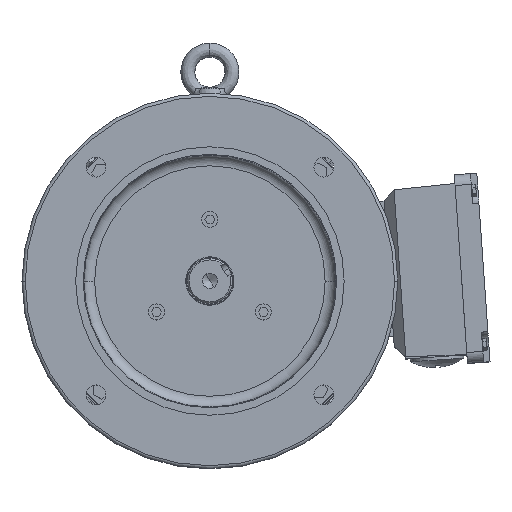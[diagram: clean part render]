
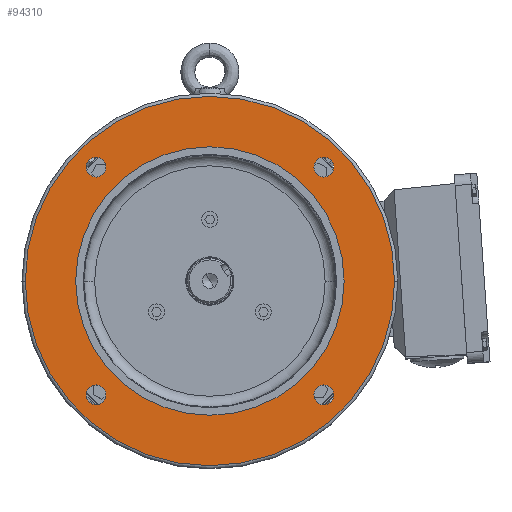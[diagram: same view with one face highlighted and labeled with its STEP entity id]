
A CAD part, top view. The second image highlights one B-rep face of the part: STEP entity #94310.
In plain terms, the highlighted planar face has unit normal (0, 0, 1).
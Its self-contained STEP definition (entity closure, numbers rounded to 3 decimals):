
#14597 = CARTESIAN_POINT ( 'NONE',  ( 0., 0., 17. ) ) ;
#14599 = DIRECTION ( 'NONE',  ( 0., 0., 1. ) ) ;
#14600 = DIRECTION ( 'NONE',  ( -1., 0., 0. ) ) ;
#14638 = CARTESIAN_POINT ( 'NONE',  ( -106.066, 106.066, 17. ) ) ;
#14639 = DIRECTION ( 'NONE',  ( 0., 0., 1. ) ) ;
#14640 = DIRECTION ( 'NONE',  ( 1., 0., 0. ) ) ;
#14648 = CARTESIAN_POINT ( 'NONE',  ( -106.066, -106.066, 17. ) ) ;
#14650 = DIRECTION ( 'NONE',  ( 0., 0., 1. ) ) ;
#14652 = DIRECTION ( 'NONE',  ( 1., 0., 0. ) ) ;
#14668 = CARTESIAN_POINT ( 'NONE',  ( 106.066, -106.066, 17. ) ) ;
#14669 = DIRECTION ( 'NONE',  ( 0., 0., 1. ) ) ;
#14670 = DIRECTION ( 'NONE',  ( 1., 0., 0. ) ) ;
#14679 = CARTESIAN_POINT ( 'NONE',  ( 106.066, 106.066, 17. ) ) ;
#14680 = DIRECTION ( 'NONE',  ( 0., 0., 1. ) ) ;
#14681 = DIRECTION ( 'NONE',  ( 1., 0., 0. ) ) ;
#14704 = CARTESIAN_POINT ( 'NONE',  ( 0., 0., 17. ) ) ;
#14705 = DIRECTION ( 'NONE',  ( 0., 0., 1. ) ) ;
#14706 = DIRECTION ( 'NONE',  ( 1., 0., 0. ) ) ;
#15156 = CARTESIAN_POINT ( 'NONE',  ( 0., 0., 17. ) ) ;
#15157 = DIRECTION ( 'NONE',  ( 0., 0., 1. ) ) ;
#15158 = DIRECTION ( 'NONE',  ( 1., 0., 0. ) ) ;
#15159 = CARTESIAN_POINT ( 'NONE',  ( 0., 0., 17. ) ) ;
#15160 = DIRECTION ( 'NONE',  ( 0., 0., 1. ) ) ;
#15161 = DIRECTION ( 'NONE',  ( -1., 0., 0. ) ) ;
#15162 = CARTESIAN_POINT ( 'NONE',  ( -106.066, 106.066, 17. ) ) ;
#15163 = DIRECTION ( 'NONE',  ( 0., 0., 1. ) ) ;
#15164 = DIRECTION ( 'NONE',  ( 1., 0., 0. ) ) ;
#15165 = CARTESIAN_POINT ( 'NONE',  ( -106.066, -106.066, 17. ) ) ;
#15166 = DIRECTION ( 'NONE',  ( 0., 0., 1. ) ) ;
#15167 = DIRECTION ( 'NONE',  ( 1., 0., 0. ) ) ;
#15168 = CARTESIAN_POINT ( 'NONE',  ( 106.066, -106.066, 17. ) ) ;
#15169 = DIRECTION ( 'NONE',  ( 0., 0., 1. ) ) ;
#15170 = DIRECTION ( 'NONE',  ( 1., 0., 0. ) ) ;
#15171 = CARTESIAN_POINT ( 'NONE',  ( 106.066, 106.066, 17. ) ) ;
#15172 = DIRECTION ( 'NONE',  ( 0., 0., 1. ) ) ;
#15173 = DIRECTION ( 'NONE',  ( 1., 0., 0. ) ) ;
#29968 = DIRECTION ( 'NONE',  ( 0., 0., -1. ) ) ;
#29983 = PLANE ( 'NONE',  #96362 ) ;
#29987 = CARTESIAN_POINT ( 'NONE',  ( 0., 175., 17. ) ) ;
#29991 = DIRECTION ( 'NONE',  ( -1., 0., 0. ) ) ;
#56998 = VERTEX_POINT ( 'NONE', #113184 ) ;
#57008 = VERTEX_POINT ( 'NONE', #113174 ) ;
#57010 = VERTEX_POINT ( 'NONE', #113167 ) ;
#57016 = VERTEX_POINT ( 'NONE', #113163 ) ;
#57018 = VERTEX_POINT ( 'NONE', #113162 ) ;
#57024 = VERTEX_POINT ( 'NONE', #113158 ) ;
#57026 = VERTEX_POINT ( 'NONE', #113157 ) ;
#57032 = VERTEX_POINT ( 'NONE', #113154 ) ;
#57034 = VERTEX_POINT ( 'NONE', #113153 ) ;
#57060 = VERTEX_POINT ( 'NONE', #113135 ) ;
#57062 = VERTEX_POINT ( 'NONE', #113134 ) ;
#57112 = VERTEX_POINT ( 'NONE', #113095 ) ;
#57934 = FACE_BOUND ( 'NONE', #105051, .T. ) ;
#57946 = FACE_BOUND ( 'NONE', #105052, .T. ) ;
#57958 = FACE_BOUND ( 'NONE', #105069, .T. ) ;
#57961 = FACE_BOUND ( 'NONE', #105050, .T. ) ;
#57967 = FACE_OUTER_BOUND ( 'NONE', #105053, .T. ) ;
#57970 = FACE_BOUND ( 'NONE', #105054, .T. ) ;
#68602 = ORIENTED_EDGE ( 'NONE', *, *, #70596, .F. ) ;
#68603 = ORIENTED_EDGE ( 'NONE', *, *, #70955, .F. ) ;
#68604 = ORIENTED_EDGE ( 'NONE', *, *, #70588, .F. ) ;
#68605 = ORIENTED_EDGE ( 'NONE', *, *, #70954, .F. ) ;
#68606 = ORIENTED_EDGE ( 'NONE', *, *, #70580, .F. ) ;
#68607 = ORIENTED_EDGE ( 'NONE', *, *, #70952, .F. ) ;
#68608 = ORIENTED_EDGE ( 'NONE', *, *, #70571, .F. ) ;
#68609 = ORIENTED_EDGE ( 'NONE', *, *, #70949, .F. ) ;
#68610 = ORIENTED_EDGE ( 'NONE', *, *, #70551, .T. ) ;
#68611 = ORIENTED_EDGE ( 'NONE', *, *, #70947, .T. ) ;
#68612 = ORIENTED_EDGE ( 'NONE', *, *, #70946, .F. ) ;
#68613 = ORIENTED_EDGE ( 'NONE', *, *, #70614, .F. ) ;
#70551 = EDGE_CURVE ( 'NONE', #57062, #57060, #87840, .T. ) ;
#70571 = EDGE_CURVE ( 'NONE', #57034, #57032, #87868, .T. ) ;
#70580 = EDGE_CURVE ( 'NONE', #57026, #57024, #87881, .T. ) ;
#70588 = EDGE_CURVE ( 'NONE', #57018, #57016, #87894, .T. ) ;
#70596 = EDGE_CURVE ( 'NONE', #57010, #57008, #87907, .T. ) ;
#70614 = EDGE_CURVE ( 'NONE', #57112, #56998, #87929, .T. ) ;
#70946 = EDGE_CURVE ( 'NONE', #56998, #57112, #88182, .T. ) ;
#70947 = EDGE_CURVE ( 'NONE', #57060, #57062, #88183, .T. ) ;
#70949 = EDGE_CURVE ( 'NONE', #57032, #57034, #88184, .T. ) ;
#70952 = EDGE_CURVE ( 'NONE', #57024, #57026, #88185, .T. ) ;
#70954 = EDGE_CURVE ( 'NONE', #57016, #57018, #88186, .T. ) ;
#70955 = EDGE_CURVE ( 'NONE', #57008, #57010, #88187, .T. ) ;
#75168 = AXIS2_PLACEMENT_3D ( 'NONE', #14597, #14599, #14600 ) ;
#75186 = AXIS2_PLACEMENT_3D ( 'NONE', #14638, #14639, #14640 ) ;
#75190 = AXIS2_PLACEMENT_3D ( 'NONE', #14648, #14650, #14652 ) ;
#75194 = AXIS2_PLACEMENT_3D ( 'NONE', #14668, #14669, #14670 ) ;
#75198 = AXIS2_PLACEMENT_3D ( 'NONE', #14679, #14680, #14681 ) ;
#75210 = AXIS2_PLACEMENT_3D ( 'NONE', #14704, #14705, #14706 ) ;
#75308 = AXIS2_PLACEMENT_3D ( 'NONE', #15156, #15157, #15158 ) ;
#75310 = AXIS2_PLACEMENT_3D ( 'NONE', #15159, #15160, #15161 ) ;
#75312 = AXIS2_PLACEMENT_3D ( 'NONE', #15162, #15163, #15164 ) ;
#75314 = AXIS2_PLACEMENT_3D ( 'NONE', #15165, #15166, #15167 ) ;
#75316 = AXIS2_PLACEMENT_3D ( 'NONE', #15168, #15169, #15170 ) ;
#75318 = AXIS2_PLACEMENT_3D ( 'NONE', #15171, #15172, #15173 ) ;
#87840 = CIRCLE ( 'NONE', #75168, 172. ) ;
#87868 = CIRCLE ( 'NONE', #75186, 9.25 ) ;
#87881 = CIRCLE ( 'NONE', #75190, 9.25 ) ;
#87894 = CIRCLE ( 'NONE', #75194, 9.25 ) ;
#87907 = CIRCLE ( 'NONE', #75198, 9.25 ) ;
#87929 = CIRCLE ( 'NONE', #75210, 125. ) ;
#88182 = CIRCLE ( 'NONE', #75308, 125. ) ;
#88183 = CIRCLE ( 'NONE', #75310, 172. ) ;
#88184 = CIRCLE ( 'NONE', #75312, 9.25 ) ;
#88185 = CIRCLE ( 'NONE', #75314, 9.25 ) ;
#88186 = CIRCLE ( 'NONE', #75316, 9.25 ) ;
#88187 = CIRCLE ( 'NONE', #75318, 9.25 ) ;
#94310 = ADVANCED_FACE ( 'NONE', ( #57958, #57967, #57934, #57946, #57961, #57970 ), #29983, .F. ) ;
#96362 = AXIS2_PLACEMENT_3D ( 'NONE', #29987, #29968, #29991 ) ;
#105050 = EDGE_LOOP ( 'NONE', ( #68605, #68604 ) ) ;
#105051 = EDGE_LOOP ( 'NONE', ( #68609, #68608 ) ) ;
#105052 = EDGE_LOOP ( 'NONE', ( #68607, #68606 ) ) ;
#105053 = EDGE_LOOP ( 'NONE', ( #68611, #68610 ) ) ;
#105054 = EDGE_LOOP ( 'NONE', ( #68603, #68602 ) ) ;
#105069 = EDGE_LOOP ( 'NONE', ( #68613, #68612 ) ) ;
#113095 = CARTESIAN_POINT ( 'NONE',  ( 125., 0., 17. ) ) ;
#113134 = CARTESIAN_POINT ( 'NONE',  ( 172., 0., 17. ) ) ;
#113135 = CARTESIAN_POINT ( 'NONE',  ( -172., 0., 17. ) ) ;
#113153 = CARTESIAN_POINT ( 'NONE',  ( -115.316, 106.066, 17. ) ) ;
#113154 = CARTESIAN_POINT ( 'NONE',  ( -96.816, 106.066, 17. ) ) ;
#113157 = CARTESIAN_POINT ( 'NONE',  ( -115.316, -106.066, 17. ) ) ;
#113158 = CARTESIAN_POINT ( 'NONE',  ( -96.816, -106.066, 17. ) ) ;
#113162 = CARTESIAN_POINT ( 'NONE',  ( 96.816, -106.066, 17. ) ) ;
#113163 = CARTESIAN_POINT ( 'NONE',  ( 115.316, -106.066, 17. ) ) ;
#113167 = CARTESIAN_POINT ( 'NONE',  ( 96.816, 106.066, 17. ) ) ;
#113174 = CARTESIAN_POINT ( 'NONE',  ( 115.316, 106.066, 17. ) ) ;
#113184 = CARTESIAN_POINT ( 'NONE',  ( -125., 0., 17. ) ) ;
